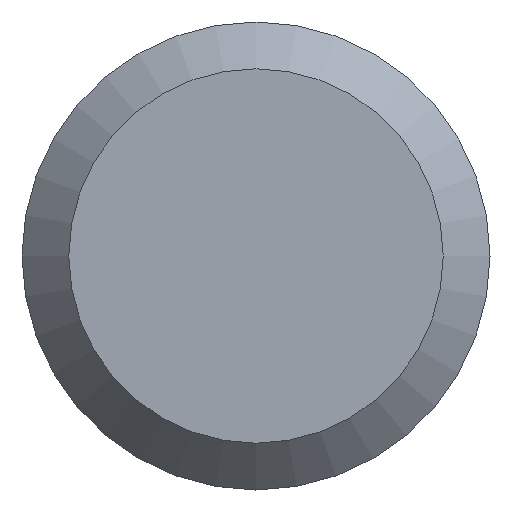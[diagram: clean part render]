
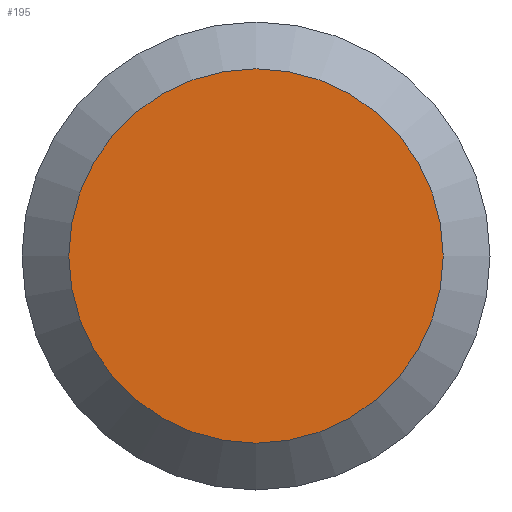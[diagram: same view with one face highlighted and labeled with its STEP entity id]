
A CAD part, left-side view. The second image highlights one B-rep face of the part: STEP entity #195.
In plain terms, the highlighted planar face has unit normal (-1, 0, 0).
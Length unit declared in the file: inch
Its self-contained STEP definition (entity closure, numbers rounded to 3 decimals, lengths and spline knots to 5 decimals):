
#5 = EDGE_LOOP ( 'NONE', ( #220 ) ) ;
#6 = CARTESIAN_POINT ( 'NONE',  ( 0., 0.121, 0. ) ) ;
#9 = CARTESIAN_POINT ( 'NONE',  ( 0., 0., 0. ) ) ;
#24 = DIRECTION ( 'NONE',  ( 0., 0., -1. ) ) ;
#34 = VERTEX_POINT ( 'NONE', #221 ) ;
#47 = DIRECTION ( 'NONE',  ( 0., 0., -1. ) ) ;
#65 = PLANE ( 'NONE',  #208 ) ;
#119 = FACE_OUTER_BOUND ( 'NONE', #5, .T. ) ;
#141 = DIRECTION ( 'NONE',  ( -1., 0., 0. ) ) ;
#191 = EDGE_CURVE ( 'NONE', #34, #34, #249, .T. ) ;
#195 = ADVANCED_FACE ( 'NONE', ( #119 ), #65, .F. ) ;
#208 = AXIS2_PLACEMENT_3D ( 'NONE', #6, #233, #47 ) ;
#220 = ORIENTED_EDGE ( 'NONE', *, *, #191, .T. ) ;
#221 = CARTESIAN_POINT ( 'NONE',  ( 0., 0., -0.0968 ) ) ;
#233 = DIRECTION ( 'NONE',  ( 1., 0., 0. ) ) ;
#244 = AXIS2_PLACEMENT_3D ( 'NONE', #9, #141, #24 ) ;
#249 = CIRCLE ( 'NONE', #244, 0.0968 ) ;
